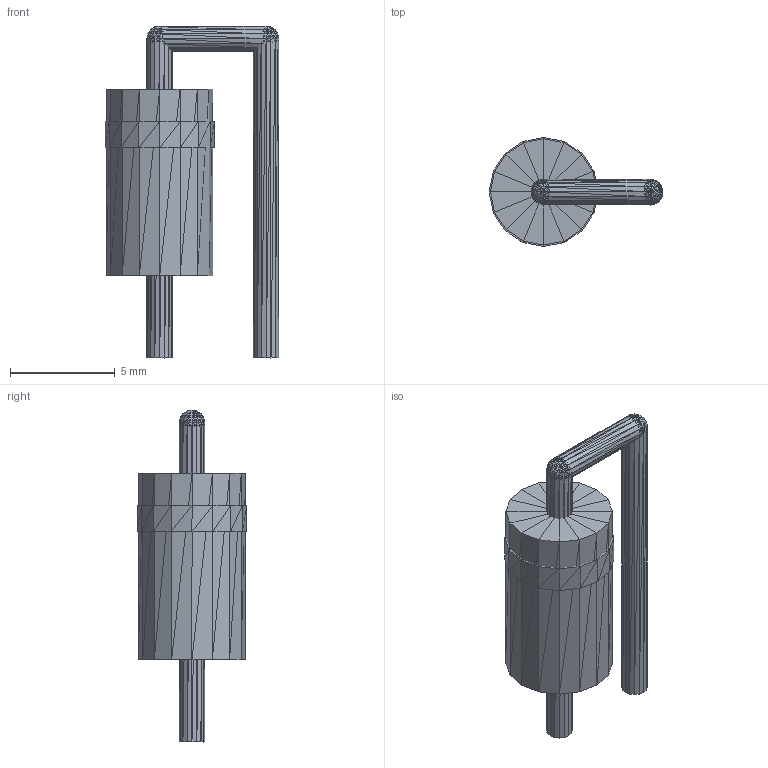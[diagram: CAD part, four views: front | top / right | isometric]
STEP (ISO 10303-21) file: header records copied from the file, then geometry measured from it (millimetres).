
FILE_DESCRIPTION(('HOOPS Exchange Step'),'2;1');
FILE_NAME('***.stp');
FILE_SCHEMA( ('AP242_MANAGED_MODEL_BASED_3D_ENGINEERING_MIM_LF {1 0 10303 442 1 1 4 }') );
Length unit declared in the file: inch
Products named in the file (8): DO-27_V_2; DO-27_V_3; DO-27_V_4; DO-27_V_5; DO-27_V_6; DO-27_V_7; DO-27_V_8; DO-27_V
Assembly tree (7 placements, depth 2):
  DO-27_V
    DO-27_V_2
    DO-27_V_3
    DO-27_V_4
    DO-27_V_5
    DO-27_V_6
    DO-27_V_7
    DO-27_V_8
Bounding box: 8.29 x 5.21 x 15.85 mm (x, y, z)
Volume: 244.3 mm3; surface area: 394 mm2
Topology: 7 solids, 7 shells, 1280 faces, 1920 edges, 654 vertices
Faces by surface type: plane 1280
Entity records: 25331 total; most frequent: DIRECTION 4512, CARTESIAN_POINT 3870, ORIENTED_EDGE 3840, VECTOR 1920, LINE 1920, EDGE_CURVE 1920, AXIS2_PLACEMENT_3D 1296, PLANE 1280
